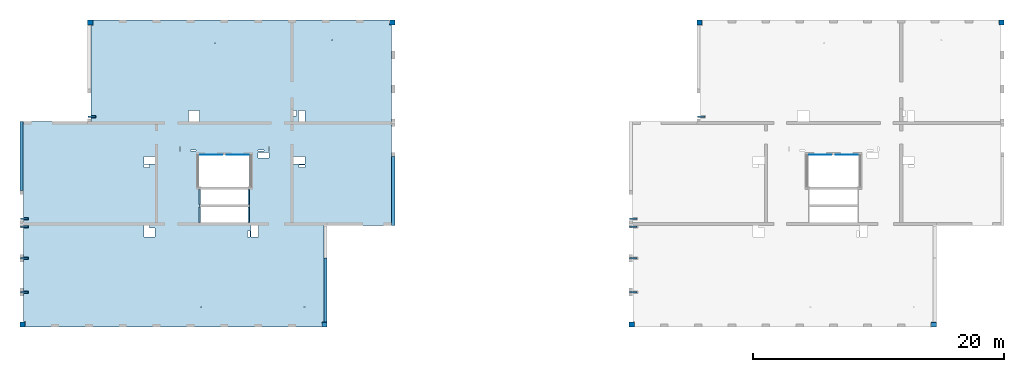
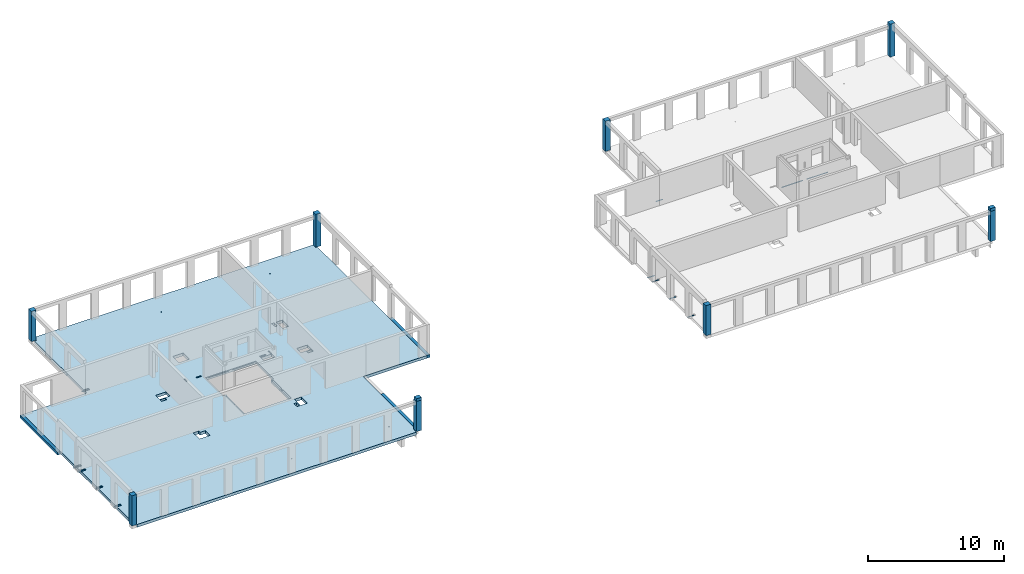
# One storey, part 1 of 12: 14 beams, 10 columns, 4 slabs, 32 openings.
"""IFC2X3 building model written with IfcOpenShell, lengths in millimetres."""

from ifc_helpers import new_model, entity, si_unit, converted_unit, derived_unit, direction, frame, frame_2d, origin, origin_2d_with_axis, place, context, subcontext, project, spatial, polyline, rectangle, circle, outline, extrude, source, transform, mapped, material, layer, layer_set, layer_usage, type_object, type_shapes, element, save


model = new_model("IFC2X3")

# Units and contexts
model_context = context("Model", 3, precision=0.01, world=origin(), true_north=direction((6.12303176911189e-17, 1.0)))
body_context = subcontext(model_context, "Body", "Model", "MODEL_VIEW")
ifc_project = project(units=[si_unit("LENGTHUNIT", "METRE", prefix="MILLI"), si_unit("AREAUNIT", "SQUARE_METRE"), si_unit("VOLUMEUNIT", "CUBIC_METRE"), converted_unit("PLANEANGLEUNIT", "DEGREE", entity("IfcRatioMeasure", 0.0174532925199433), si_unit("PLANEANGLEUNIT", "RADIAN"), dimensions=[0, 0, 0, 0, 0, 0, 0]), si_unit("MASSUNIT", "GRAM", prefix="KILO"), derived_unit("MASSDENSITYUNIT", [(si_unit("MASSUNIT", "GRAM", prefix="KILO"), 1), (si_unit("LENGTHUNIT", "METRE"), -3)]), si_unit("TIMEUNIT", "SECOND"), si_unit("FREQUENCYUNIT", "HERTZ"), si_unit("THERMODYNAMICTEMPERATUREUNIT", "DEGREE_CELSIUS"), derived_unit("THERMALTRANSMITTANCEUNIT", [(si_unit("MASSUNIT", "GRAM", prefix="KILO"), 1), (si_unit("THERMODYNAMICTEMPERATUREUNIT", "KELVIN"), -1), (si_unit("TIMEUNIT", "SECOND"), -3)]), derived_unit("VOLUMETRICFLOWRATEUNIT", [(si_unit("LENGTHUNIT", "METRE"), 3), (si_unit("TIMEUNIT", "SECOND"), -1)]), si_unit("ELECTRICCURRENTUNIT", "AMPERE"), si_unit("ELECTRICVOLTAGEUNIT", "VOLT"), si_unit("POWERUNIT", "WATT"), si_unit("FORCEUNIT", "NEWTON", prefix="KILO"), si_unit("ILLUMINANCEUNIT", "LUX"), si_unit("LUMINOUSFLUXUNIT", "LUMEN"), si_unit("LUMINOUSINTENSITYUNIT", "CANDELA"), derived_unit("USERDEFINED", [(si_unit("MASSUNIT", "GRAM", prefix="KILO"), -1), (si_unit("LENGTHUNIT", "METRE"), -2), (si_unit("TIMEUNIT", "SECOND"), 3), (si_unit("LUMINOUSFLUXUNIT", "LUMEN"), 1)]), derived_unit("LINEARVELOCITYUNIT", [(si_unit("LENGTHUNIT", "METRE"), 1), (si_unit("TIMEUNIT", "SECOND"), -1)]), si_unit("PRESSUREUNIT", "PASCAL"), derived_unit("USERDEFINED", [(si_unit("LENGTHUNIT", "METRE"), -2), (si_unit("MASSUNIT", "GRAM", prefix="KILO"), 1), (si_unit("TIMEUNIT", "SECOND"), -2)])], contexts=[model_context])

# Site, building, storey
site_placement = place(None, origin())
site = spatial("IfcSite", under=ifc_project, at=site_placement, Name="Default", CompositionType="ELEMENT")
building_placement = place(site_placement, origin())
building = spatial("IfcBuilding", under=site, at=building_placement, Name="niet gebruiken", CompositionType="ELEMENT")
storey_placement = place(building_placement, frame((0.0, 0.0, 24480.0)))
storey = spatial("IfcBuildingStorey", under=building, at=storey_placement, Name="08 achtste verdieping", CompositionType="ELEMENT", Elevation=24480.0)

# Columns
ifc_material_1 = material(Name="NLRS_f2_beton prefab")
column_type_1 = type_object("IfcColumnType", Name="410x410", PredefinedType="COLUMN", material=ifc_material_1)
shared_shape_1 = source(origin(), body_context, "Body", "SweptSolid", [
    extrude(rectangle(XDim=410.000000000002, YDim=409.999999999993, at=frame_2d((-4.33431068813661e-12, 0.0), x_axis=(1.0, 0.0))), frame((99795.0, 28961.0, 24410.0), z_axis=(0.0, 0.0, 1.0), x_axis=(0.0, -1.0, 0.0)), (0.0, 0.0, 1.0), 2700.0),
])
type_shapes(column_type_1, [shared_shape_1])
column_1_placement = place(storey_placement, frame((0.0, 0.0, -24480.0)))
element("IfcColumn", 1, at=column_1_placement, inside=storey, type_object=column_type_1, material=ifc_material_1, Name="NLRS_28. kolom vierkant_gen:410x410", ObjectType="410x410", context=body_context, shape_type="MappedRepresentation", body=[
    mapped(shared_shape_1, transform((0.0, 0.0, 0.0), scale=1.0)),
])
column_type_2 = type_object("IfcColumnType", Name="410x410", PredefinedType="COLUMN", material=ifc_material_1)
shared_shape_2 = source(origin(), body_context, "Body", "SweptSolid", [
    extrude(rectangle(XDim=410.0, YDim=410.0, at=origin_2d_with_axis()), frame((0.0, 0.0, 24410.0), z_axis=(0.0, 0.0, 1.0), x_axis=(0.0, -1.0, 0.0)), (0.0, 0.0, 1.0), 2700.0),
])
type_shapes(column_type_2, [shared_shape_2])
for number, where, z_axis, x_axis, name in (
    (2, (75705.0, 28961.0, -24480.0), (0.0, 0.0, 1.0), (0.0, 1.0, 0.0), "NLRS_28. kolom vierkant_gen1:410x410"),
    (3, (27105.0, 28961.0, -24480.0), (0.0, 0.0, 1.0), (0.0, 1.0, 0.0), "NLRS_28. kolom vierkant_gen1:410x410"),
):
    element("IfcColumn", number, at=place(storey_placement, frame(where, z_axis=z_axis, x_axis=x_axis)), inside=storey, type_object=column_type_2, material=ifc_material_1, Name=name, ObjectType="410x410", context=body_context, shape_type="MappedRepresentation", body=[
        mapped(shared_shape_2, transform((0.0, 0.0, 0.0), scale=1.0)),
    ])
column_type_3 = type_object("IfcColumnType", Name="410x410", PredefinedType="COLUMN", material=ifc_material_1)
shared_shape_3 = source(origin(), body_context, "Body", "SweptSolid", [
    extrude(rectangle(XDim=410.000000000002, YDim=409.999999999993, at=origin_2d_with_axis()), frame((105195.0, 53051.0, 24410.0), z_axis=(0.0, 0.0, 1.0), x_axis=(0.0, -1.0, 0.0)), (0.0, 0.0, 1.0), 2950.0),
])
type_shapes(column_type_3, [shared_shape_3])
column_2_placement = place(storey_placement, frame((0.0, 0.0, -24480.0)))
element("IfcColumn", 4, at=column_2_placement, inside=storey, type_object=column_type_3, material=ifc_material_1, Name="NLRS_28. kolom vierkant_gen:410x410", ObjectType="410x410", context=body_context, shape_type="MappedRepresentation", body=[
    mapped(shared_shape_3, transform((0.0, 0.0, 0.0), scale=1.0)),
])
column_type_4 = type_object("IfcColumnType", Name="410x410", PredefinedType="COLUMN", material=ifc_material_1)
shared_shape_4 = source(origin(), body_context, "Body", "SweptSolid", [
    extrude(rectangle(XDim=410.000000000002, YDim=409.999999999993, at=origin_2d_with_axis()), frame((81105.0, 53051.0, 24410.0), z_axis=(0.0, 0.0, 1.0), x_axis=(0.0, -1.0, 0.0)), (0.0, 0.0, 1.0), 2700.0),
])
type_shapes(column_type_4, [shared_shape_4])
column_3_placement = place(storey_placement, frame((0.0, 0.0, -24480.0)))
element("IfcColumn", 5, at=column_3_placement, inside=storey, type_object=column_type_4, material=ifc_material_1, Name="NLRS_28. kolom vierkant_gen:410x410", ObjectType="410x410", context=body_context, shape_type="MappedRepresentation", body=[
    mapped(shared_shape_4, transform((0.0, 0.0, 0.0), scale=1.0)),
])
column_type_5 = type_object("IfcColumnType", Name="410x410", PredefinedType="COLUMN", material=ifc_material_1)
shared_shape_5 = source(origin(), body_context, "Body", "SweptSolid", [
    extrude(rectangle(XDim=410.000000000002, YDim=410.000000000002, at=frame_2d((4.33431068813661e-12, 0.0), x_axis=(1.0, 0.0))), frame((51195.0, 28961.0, 24410.0), z_axis=(0.0, 0.0, 1.0), x_axis=(0.0, -1.0, 0.0)), (0.0, 0.0, 1.0), 2700.0),
])
type_shapes(column_type_5, [shared_shape_5])
column_4_placement = place(storey_placement, frame((0.0, 0.0, -24480.0)))
element("IfcColumn", 6, at=column_4_placement, inside=storey, type_object=column_type_5, material=ifc_material_1, Name="NLRS_28. kolom vierkant_gen:410x410", ObjectType="410x410", context=body_context, shape_type="MappedRepresentation", body=[
    mapped(shared_shape_5, transform((0.0, 0.0, 0.0), scale=1.0)),
])
column_type_6 = type_object("IfcColumnType", Name="410x410", PredefinedType="COLUMN", material=ifc_material_1)
shared_shape_6 = source(origin(), body_context, "Body", "SweptSolid", [
    extrude(rectangle(XDim=410.000000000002, YDim=410.000000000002, at=origin_2d_with_axis()), frame((56595.0, 53051.0, 24410.0), z_axis=(0.0, 0.0, 1.0), x_axis=(0.0, -1.0, 0.0)), (0.0, 0.0, 1.0), 2950.0),
])
type_shapes(column_type_6, [shared_shape_6])
column_5_placement = place(storey_placement, frame((0.0, 0.0, -24480.0)))
element("IfcColumn", 7, at=column_5_placement, inside=storey, type_object=column_type_6, material=ifc_material_1, Name="NLRS_28. kolom vierkant_gen:410x410", ObjectType="410x410", context=body_context, shape_type="MappedRepresentation", body=[
    mapped(shared_shape_6, transform((0.0, 0.0, 0.0), scale=1.0)),
])
column_type_7 = type_object("IfcColumnType", Name="410x410", PredefinedType="COLUMN", material=ifc_material_1)
shared_shape_7 = source(origin(), body_context, "Body", "SweptSolid", [
    extrude(rectangle(XDim=410.000000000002, YDim=409.999999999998, at=frame_2d((8.66862137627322e-12, 0.0), x_axis=(1.0, 0.0))), frame((32505.0, 53051.0, 24410.0), z_axis=(0.0, 0.0, 1.0), x_axis=(0.0, -1.0, 0.0)), (0.0, 0.0, 1.0), 2700.0),
])
type_shapes(column_type_7, [shared_shape_7])
column_6_placement = place(storey_placement, frame((0.0, 0.0, -24480.0)))
element("IfcColumn", 8, at=column_6_placement, inside=storey, type_object=column_type_7, material=ifc_material_1, Name="NLRS_28. kolom vierkant_gen:410x410", ObjectType="410x410", context=body_context, shape_type="MappedRepresentation", body=[
    mapped(shared_shape_7, transform((0.0, 0.0, 0.0), scale=1.0)),
])
column_type_8 = type_object("IfcColumnType", Name="410x360", PredefinedType="COLUMN", material=ifc_material_1)
shared_shape_8 = source(origin(), body_context, "Body", "SweptSolid", [
    extrude(rectangle(XDim=360.0, YDim=409.999999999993, at=origin_2d_with_axis()), frame((99795.0, 28936.0, 27110.0), z_axis=(0.0, 0.0, 1.0), x_axis=(0.0, -1.0, 0.0)), (0.0, 0.0, 1.0), 249.999999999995),
])
type_shapes(column_type_8, [shared_shape_8])
column_7_placement = place(storey_placement, frame((0.0, 0.0, -24480.0)))
element("IfcColumn", 9, at=column_7_placement, inside=storey, type_object=column_type_8, material=ifc_material_1, Name="NLRS_28. kolom vierkant_gen:410x360", ObjectType="410x360", context=body_context, shape_type="MappedRepresentation", body=[
    mapped(shared_shape_8, transform((0.0, 0.0, 0.0), scale=1.0)),
])
column_type_9 = type_object("IfcColumnType", Name="410x360", PredefinedType="COLUMN", material=ifc_material_1)
shared_shape_9 = source(origin(), body_context, "Body", "SweptSolid", [
    extrude(rectangle(XDim=360.0, YDim=410.000000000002, at=origin_2d_with_axis()), frame((51195.0, 28936.0, 27110.0), z_axis=(0.0, 0.0, 1.0), x_axis=(0.0, -1.0, 0.0)), (0.0, 0.0, 1.0), 249.999999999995),
])
type_shapes(column_type_9, [shared_shape_9])
column_8_placement = place(storey_placement, frame((0.0, 0.0, -24480.0)))
element("IfcColumn", 10, at=column_8_placement, inside=storey, type_object=column_type_9, material=ifc_material_1, Name="NLRS_28. kolom vierkant_gen:410x360", ObjectType="410x360", context=body_context, shape_type="MappedRepresentation", body=[
    mapped(shared_shape_9, transform((0.0, 0.0, 0.0), scale=1.0)),
])

# Beams
ifc_material_2 = material(Name="NLRS_h2_staal")
beam_type_1 = type_object("IfcBeamType", Name="ligger stripstaal RECT_120x10", PredefinedType="BEAM", material=ifc_material_2)
shared_shape_10 = source(origin(), body_context, "Body", "SweptSolid", [
    extrude(rectangle(XDim=599.999999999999, YDim=120.0, at=origin_2d_with_axis()), frame((0.0, 0.0, -5.0), z_axis=(0.0, 0.0, 1.0), x_axis=(-1.0, 0.0, 0.0)), (0.0, 0.0, 1.0), 9.99999999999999),
    extrude(rectangle(XDim=599.999999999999, YDim=120.0, at=origin_2d_with_axis()), frame((0.0, 0.0, -5.0), z_axis=(0.0, 0.0, 1.0), x_axis=(-1.0, 0.0, 0.0)), (0.0, 0.0, 1.0), 9.99999999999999),
])
type_shapes(beam_type_1, [shared_shape_10])
for number, where, name in (
    (11, (75835.0, 31556.0, -115.0), "NLRS_28.11_SF_WPB_stalen ligger stripstaal_gen:ligger stripstaal RECT_120x10"),
    (12, (75835.0, 34256.0, -115.0), "NLRS_28.11_SF_WPB_stalen ligger stripstaal_gen:ligger stripstaal RECT_120x10"),
    (13, (75835.0, 36766.0, -115.0), "NLRS_28.11_SF_WPB_stalen ligger stripstaal_gen:ligger stripstaal RECT_120x10"),
    (14, (27235.0, 31556.0, -115.0), "NLRS_28.11_SF_WPB_stalen ligger stripstaal_gen:ligger stripstaal RECT_120x10"),
    (15, (27235.0, 34256.0, -115.0), "NLRS_28.11_SF_WPB_stalen ligger stripstaal_gen:ligger stripstaal RECT_120x10"),
    (16, (27235.0, 36766.0, -115.0), "NLRS_28.11_SF_WPB_stalen ligger stripstaal_gen:ligger stripstaal RECT_120x10"),
):
    element("IfcBeam", number, at=place(storey_placement, frame(where)), inside=storey, type_object=beam_type_1, material=ifc_material_2, Name=name, ObjectType="ligger stripstaal RECT_120x10", context=body_context, shape_type="MappedRepresentation", body=[
        mapped(shared_shape_10, transform((0.0, 0.0, 0.0), scale=1.0)),
    ])
beam_type_2 = type_object("IfcBeamType", Name="NLRS_28.11_SF_WPB_Halfen 40-22_gen:ligger stripstaal RECT_100x10", PredefinedType="BEAM")
beam_1_placement = place(storey_placement, frame((89865.0, 42496.0, -160.0)))
element("IfcBeam", 17, at=beam_1_placement, inside=storey, type_object=beam_type_2, material=ifc_material_2, Name="NLRS_28.11_SF_WPB_Halfen 40-22_gen:ligger stripstaal RECT_100x10", ObjectType="NLRS_28.11_SF_WPB_Halfen 40-22_gen:ligger stripstaal RECT_100x10", context=body_context, shape_type="SweptSolid", body=[
    extrude(outline(polyline([(-20.0, -8.0), (-9.0, -8.0), (-9.0, 0.0), (-11.0, 0.0), (-11.0, -6.0), (-18.0, -6.0), (-18.0, 13.0), (18.0, 13.0), (18.0, -6.0), (11.0, -6.0), (11.0, 0.0), (9.0, 0.0), (9.0, -8.0), (20.0, -8.0), (20.0, 15.0), (-20.0, 15.0), (-20.0, -8.0)])), frame((0.0, 8.0, 20.0), z_axis=(1.0, 0.0, 0.0), x_axis=(0.0, 0.0, -1.0)), (0.0, 0.0, 1.0), 1760.00000000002),
])
beam_2_placement = place(storey_placement, frame((91975.0, 42496.0, -160.0)))
element("IfcBeam", 18, at=beam_2_placement, inside=storey, type_object=beam_type_2, material=ifc_material_2, Name="NLRS_28.11_SF_WPB_Halfen 40-22_gen:ligger stripstaal RECT_100x10", ObjectType="NLRS_28.11_SF_WPB_Halfen 40-22_gen:ligger stripstaal RECT_100x10", context=body_context, shape_type="SweptSolid", body=[
    extrude(outline(polyline([(-20.0, -8.0), (-9.0, -8.0), (-9.0, 0.0), (-11.0, 0.0), (-11.0, -6.0), (-18.0, -6.0), (-18.0, 13.0), (18.0, 13.0), (18.0, -6.0), (11.0, -6.0), (11.0, 0.0), (9.0, 0.0), (9.0, -8.0), (20.0, -8.0), (20.0, 15.0), (-20.0, 15.0), (-20.0, -8.0)])), frame((0.0, 8.0, 20.0), z_axis=(1.0, 0.0, 0.0), x_axis=(0.0, 0.0, -1.0)), (0.0, 0.0, 1.0), 1760.0),
])
for number, where, name in (
    (19, (41264.9998491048, 42496.0, -160.0), "NLRS_28.11_SF_WPB_Halfen 40-22_gen:ligger stripstaal RECT_100x10"),
    (20, (43374.999849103, 42496.0, -160.0), "NLRS_28.11_SF_WPB_Halfen 40-22_gen:ligger stripstaal RECT_100x10"),
):
    element("IfcBeam", number, at=place(storey_placement, frame(where)), inside=storey, type_object=beam_type_2, material=ifc_material_2, Name=name, ObjectType="NLRS_28.11_SF_WPB_Halfen 40-22_gen:ligger stripstaal RECT_100x10", context=body_context, shape_type="SweptSolid", body=[
        extrude(outline(polyline([(-20.0, -8.0), (-9.0, -8.0), (-9.0, 0.0), (-11.0, 0.0), (-11.0, -6.0), (-18.0, -6.0), (-18.0, 13.0), (18.0, 13.0), (18.0, -6.0), (11.0, -6.0), (11.0, 0.0), (9.0, 0.0), (9.0, -8.0), (20.0, -8.0), (20.0, 15.0), (-20.0, 15.0), (-20.0, -8.0)])), frame((0.0, 8.0, 20.0), z_axis=(1.0, 0.0, 0.0), x_axis=(0.0, 0.0, -1.0)), (0.0, 0.0, 1.0), 1760.00000000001),
    ])
beam_type_3 = type_object("IfcBeamType", Name="ligger stripstaal RECT_120x10", PredefinedType="BEAM", material=ifc_material_2)
shared_shape_11 = source(origin(), body_context, "Body", "SweptSolid", [
    extrude(rectangle(XDim=120.0, YDim=600.000000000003, at=origin_2d_with_axis()), frame((0.0, 0.0, -5.0), z_axis=(0.0, 0.0, 1.0), x_axis=(0.0, 1.0, 0.0)), (0.0, 0.0, 1.0), 9.99999999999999),
    extrude(rectangle(XDim=120.0, YDim=600.000000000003, at=origin_2d_with_axis()), frame((0.0, 0.0, -5.0), z_axis=(0.0, 0.0, 1.0), x_axis=(0.0, 1.0, 0.0)), (0.0, 0.0, 1.0), 9.99999999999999),
])
type_shapes(beam_type_3, [shared_shape_11])
for number, where, name in (
    (21, (75835.0, 37386.0, -115.0), "NLRS_28.11_SF_WPB_stalen ligger stripstaal_gen:ligger stripstaal RECT_120x10"),
    (22, (27235.0, 37386.0, -115.0), "NLRS_28.11_SF_WPB_stalen ligger stripstaal_gen:ligger stripstaal RECT_120x10"),
    (23, (81235.0, 45521.0, -115.0), "NLRS_28.11_SF_WPB_stalen ligger stripstaal_gen:ligger stripstaal RECT_120x10"),
    (24, (32635.0, 45521.0, -115.0), "NLRS_28.11_SF_WPB_stalen ligger stripstaal_gen:ligger stripstaal RECT_120x10"),
):
    element("IfcBeam", number, at=place(storey_placement, frame(where)), inside=storey, type_object=beam_type_3, material=ifc_material_2, Name=name, ObjectType="ligger stripstaal RECT_120x10", context=body_context, shape_type="MappedRepresentation", body=[
        mapped(shared_shape_11, transform((0.0, 0.0, 0.0), scale=1.0)),
    ])

# Slab, openings
ifc_material_3 = material(Name="NLRS_f2_beton ihwg")
ifc_layer = layer(ifc_material_3, 250.0)
ifc_layer_set = layer_set([ifc_layer], Name="Floor:NLRS_23.21_FL_beton ihwg d=250_gen")
ifc_layer_usage_1 = layer_usage(ifc_layer_set, "AXIS3", "POSITIVE", 0.0)
slab_1_placement = place(storey_placement, frame((26900.0, 28756.0, -340.0)))
slab_1 = element("IfcSlab", 25, at=slab_1_placement, inside=storey, material=ifc_layer_usage_1, Name="Floor:NLRS_23.21_FL_beton ihwg d=250_gen", ObjectType="Floor:NLRS_23.21_FL_beton ihwg d=250_gen", PredefinedType="FLOOR", context=body_context, shape_type="SweptSolid", body=[
    extrude(outline(polyline([(8994.99996701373, 12250.0), (-14665.0, 12250.0), (-14665.0, 11840.0), (-14805.0, 11840.0), (-14805.0, 4060.0), (-14825.0, 4060.0), (-14825.0, -4150.0), (-9425.0, -4150.0), (-9425.0, -11890.0), (-9265.00003298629, -11890.0), (-9265.00003298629, -12250.0), (14395.0, -12250.0), (14395.0, -11820.0), (14535.0, -11820.0), (14535.0, -4060.0), (14555.0, -4060.0), (14555.0, -1350.0), (14825.0, -1350.0), (14825.0, 4150.0), (9155.0, 4150.0), (9155.0, 7060.0), (9175.0, 7060.0), (9175.0, 11820.0), (8994.99996701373, 11820.0), (8994.99996701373, 12250.0)])), frame((14825.0, 12250.0, 250.0), z_axis=(0.0, 0.0, -1.0), x_axis=(-1.0, 0.0, 0.0)), (0.0, 0.0, 1.0), 249.999999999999),
])
opening_1_placement = place(storey_placement, frame((26900.0, 28756.0, -340.0)))
element("IfcOpeningElement", 26, at=opening_1_placement, cuts=slab_1, ObjectType="Opening", context=body_context, shape_type="SweptSolid", body=[
    extrude(circle(Radius=37.5, at=frame_2d((-7875.0, -10650.0), x_axis=(1.0, 0.0))), frame((14825.0, 12250.0, 250.0), z_axis=(0.0, 0.0, -1.0), x_axis=(-1.0, 0.0, 0.0)), (0.0, 0.0, 1.0), 249.999999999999),
])
opening_2_placement = place(storey_placement, frame((26900.0, 28756.0, -340.0)))
element("IfcOpeningElement", 27, at=opening_2_placement, cuts=slab_1, ObjectType="Opening", context=body_context, shape_type="SweptSolid", body=[
    extrude(circle(Radius=37.5, at=frame_2d((-10075.0, 10650.0), x_axis=(1.0, 0.0))), frame((14825.0, 12250.0, 250.0), z_axis=(0.0, 0.0, -1.0), x_axis=(-1.0, 0.0, 0.0)), (0.0, 0.0, 1.0), 249.999999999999),
])
opening_3_placement = place(storey_placement, frame((26900.0, 28756.0, -340.0)))
element("IfcOpeningElement", 28, at=opening_3_placement, cuts=slab_1, ObjectType="Opening", context=body_context, shape_type="SweptSolid", body=[
    extrude(circle(Radius=37.5, at=frame_2d((-725.0, 10400.0), x_axis=(1.0, 0.0))), frame((14825.0, 12250.0, 250.0), z_axis=(0.0, 0.0, -1.0), x_axis=(-1.0, 0.0, 0.0)), (0.0, 0.0, 1.0), 249.999999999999),
])
opening_4_placement = place(storey_placement, frame((26900.0, 28756.0, -340.0)))
element("IfcOpeningElement", 29, at=opening_4_placement, cuts=slab_1, ObjectType="Opening", context=body_context, shape_type="SweptSolid", body=[
    extrude(circle(Radius=37.5, at=frame_2d((375.0, -10650.0), x_axis=(1.0, 0.0))), frame((14825.0, 12250.0, 250.0), z_axis=(0.0, 0.0, -1.0), x_axis=(-1.0, 0.0, 0.0)), (0.0, 0.0, 1.0), 249.999999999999),
])
opening_5_placement = place(slab_1_placement, origin())
element("IfcOpeningElement", 30, at=opening_5_placement, cuts=slab_1, ObjectType="Opening", context=body_context, shape_type="SweptSolid", body=[
    extrude(rectangle(XDim=110.000000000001, YDim=1220.0, at=origin_2d_with_axis()), frame((14344.9999671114, 10380.0, 210.0)), (0.0, 0.0, 1.0), 39.9999999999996),
])
opening_6_placement = place(slab_1_placement, origin())
element("IfcOpeningElement", 31, at=opening_6_placement, cuts=slab_1, ObjectType="Opening", context=body_context, shape_type="SweptSolid", body=[
    extrude(rectangle(XDim=110.000000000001, YDim=1220.0, at=origin_2d_with_axis()), frame((18255.0, 10380.0, 210.0)), (0.0, 0.0, 1.0), 39.9999999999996),
])
opening_7_placement = place(slab_1_placement, origin())
element("IfcOpeningElement", 32, at=opening_7_placement, cuts=slab_1, ObjectType="Opening", context=body_context, shape_type="SweptSolid", body=[
    extrude(rectangle(XDim=110.000000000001, YDim=1220.0, at=origin_2d_with_axis()), frame((18255.0, 8960.0, 210.0)), (0.0, 0.0, 1.0), 39.9999999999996),
])
opening_8_placement = place(slab_1_placement, origin())
element("IfcOpeningElement", 33, at=opening_8_placement, cuts=slab_1, ObjectType="Opening", context=body_context, shape_type="SweptSolid", body=[
    extrude(rectangle(XDim=110.000000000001, YDim=1220.0, at=origin_2d_with_axis()), frame((14344.9997832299, 8960.0, 210.0)), (0.0, 0.0, 1.0), 39.9999999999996),
])
opening_9_placement = place(slab_1_placement, origin())
element("IfcOpeningElement", 34, at=opening_9_placement, cuts=slab_1, ObjectType="Opening", context=body_context, shape_type="SweptSolid", body=[
    extrude(rectangle(XDim=200.000000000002, YDim=400.000000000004, at=origin_2d_with_axis()), frame((490.0, 2800.0, 220.0), z_axis=(0.0, 0.0, 1.0), x_axis=(0.0, -1.0, 0.0)), (0.0, 0.0, 1.0), 30.0000000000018),
])
opening_10_placement = place(slab_1_placement, origin())
element("IfcOpeningElement", 35, at=opening_10_placement, cuts=slab_1, ObjectType="Opening", context=body_context, shape_type="SweptSolid", body=[
    extrude(rectangle(XDim=200.000000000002, YDim=400.000000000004, at=origin_2d_with_axis()), frame((490.0, 5500.0, 220.0), z_axis=(0.0, 0.0, 1.0), x_axis=(0.0, -1.0, 0.0)), (0.0, 0.0, 1.0), 30.0000000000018),
])
opening_11_placement = place(slab_1_placement, origin())
element("IfcOpeningElement", 36, at=opening_11_placement, cuts=slab_1, ObjectType="Opening", context=body_context, shape_type="SweptSolid", body=[
    extrude(rectangle(XDim=200.000000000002, YDim=400.000000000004, at=origin_2d_with_axis()), frame((490.0, 8000.0, 220.0), z_axis=(0.0, 0.0, 1.0), x_axis=(0.0, -1.0, 0.0)), (0.0, 0.0, 1.0), 30.0000000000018),
])
opening_12_placement = place(slab_1_placement, origin())
element("IfcOpeningElement", 37, at=opening_12_placement, cuts=slab_1, ObjectType="Opening", context=body_context, shape_type="SweptSolid", body=[
    extrude(rectangle(XDim=400.000000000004, YDim=200.000000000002, at=origin_2d_with_axis()), frame((470.0, 8630.0, 220.0)), (0.0, 0.0, 1.0), 30.0000000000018),
])
opening_13_placement = place(slab_1_placement, origin())
element("IfcOpeningElement", 38, at=opening_13_placement, cuts=slab_1, ObjectType="Opening", context=body_context, shape_type="SweptSolid", body=[
    extrude(rectangle(XDim=400.000000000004, YDim=199.999999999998, at=origin_2d_with_axis()), frame((5870.0, 16765.0, 220.0)), (0.0, 0.0, 1.0), 30.0000000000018),
])
opening_14_placement = place(slab_1_placement, origin())
element("IfcOpeningElement", 39, at=opening_14_placement, cuts=slab_1, ObjectType="Opening", context=body_context, shape_type="SweptSolid", body=[
    extrude(rectangle(XDim=900.000000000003, YDim=700.000000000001, at=origin_2d_with_axis()), frame((10325.0, 7550.0, 0.0), z_axis=(0.0, 0.0, 1.0), x_axis=(-1.0, 0.0, 0.0)), (0.0, 0.0, 1.0), 249.999999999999),
])
opening_15_placement = place(slab_1_placement, origin())
element("IfcOpeningElement", 40, at=opening_15_placement, cuts=slab_1, ObjectType="Opening", context=body_context, shape_type="SweptSolid", body=[
    extrude(rectangle(XDim=200.000000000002, YDim=450.000000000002, at=origin_2d_with_axis()), frame((10100.0, 8000.0, 0.0), z_axis=(0.0, 0.0, 1.0), x_axis=(0.0, -1.0, 0.0)), (0.0, 0.0, 1.0), 249.999999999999),
])
opening_16_placement = place(slab_1_placement, origin())
element("IfcOpeningElement", 41, at=opening_16_placement, cuts=slab_1, ObjectType="Opening", context=body_context, shape_type="SweptSolid", body=[
    extrude(rectangle(XDim=450.000000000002, YDim=900.000000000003, at=origin_2d_with_axis()), frame((19430.0, 13720.0, 0.0), z_axis=(0.0, 0.0, 1.0), x_axis=(0.0, -1.0, 0.0)), (0.0, 0.0, 1.0), 249.999999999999),
])
opening_17_placement = place(slab_1_placement, origin())
element("IfcOpeningElement", 42, at=opening_17_placement, cuts=slab_1, ObjectType="Opening", context=body_context, shape_type="SweptSolid", body=[
    extrude(rectangle(XDim=900.000000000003, YDim=900.000000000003, at=origin_2d_with_axis()), frame((13885.0, 16850.0, 0.0), z_axis=(0.0, 0.0, 1.0), x_axis=(-1.0, 0.0, 0.0)), (0.0, 0.0, 1.0), 249.999999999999),
])
opening_18_placement = place(slab_1_placement, origin())
element("IfcOpeningElement", 43, at=opening_18_placement, cuts=slab_1, ObjectType="Opening", context=body_context, shape_type="SweptSolid", body=[
    extrude(rectangle(XDim=900.000000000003, YDim=600.000000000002, at=origin_2d_with_axis()), frame((10325.0, 13330.0, 0.0), z_axis=(0.0, 0.0, 1.0), x_axis=(-1.0, 0.0, 0.0)), (0.0, 0.0, 1.0), 249.999999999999),
])
opening_19_placement = place(slab_1_placement, origin())
element("IfcOpeningElement", 44, at=opening_19_placement, cuts=slab_1, ObjectType="Opening", context=body_context, shape_type="SweptSolid", body=[
    extrude(rectangle(XDim=900.000000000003, YDim=499.999999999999, at=origin_2d_with_axis()), frame((22475.0, 16850.0, 0.0), z_axis=(0.0, 0.0, 1.0), x_axis=(0.0, 1.0, 0.0)), (0.0, 0.0, 1.0), 249.999999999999),
])
opening_20_placement = place(slab_1_placement, origin())
element("IfcOpeningElement", 45, at=opening_20_placement, cuts=slab_1, ObjectType="Opening", context=body_context, shape_type="SweptSolid", body=[
    extrude(rectangle(XDim=899.999999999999, YDim=600.000000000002, at=origin_2d_with_axis()), frame((18729.9818996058, 7650.0, 0.0), z_axis=(0.0, 0.0, 1.0), x_axis=(0.0, 1.0, 0.0)), (0.0, 0.0, 1.0), 249.999999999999),
])
opening_21_placement = place(slab_1_placement, origin())
element("IfcOpeningElement", 46, at=opening_21_placement, cuts=slab_1, ObjectType="Opening", context=body_context, shape_type="SweptSolid", body=[
    extrude(rectangle(XDim=1760.00000000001, YDim=23.0000000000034, at=origin_2d_with_axis()), frame((17354.999849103, 13751.5, 180.0)), (0.0, 0.0, 1.0), 39.9999999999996),
])
opening_22_placement = place(slab_1_placement, origin())
element("IfcOpeningElement", 47, at=opening_22_placement, cuts=slab_1, ObjectType="Opening", context=body_context, shape_type="SweptSolid", body=[
    extrude(rectangle(XDim=1760.00000000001, YDim=23.0000000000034, at=origin_2d_with_axis()), frame((15244.9998491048, 13751.5, 180.0)), (0.0, 0.0, 1.0), 39.9999999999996),
])
opening_23_placement = place(slab_1_placement, origin())
element("IfcOpeningElement", 48, at=opening_23_placement, cuts=slab_1, ObjectType="Opening", context=body_context, shape_type="SweptSolid", body=[
    extrude(rectangle(XDim=100.000000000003, YDim=490.000000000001, at=origin_2d_with_axis()), frame((19225.0, 14090.0, 0.0), z_axis=(0.0, 0.0, 1.0), x_axis=(0.0, -1.0, 0.0)), (0.0, 0.0, 1.0), 249.999999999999),
])
opening_24_placement = place(slab_1_placement, origin())
element("IfcOpeningElement", 49, at=opening_24_placement, cuts=slab_1, ObjectType="Opening", context=body_context, shape_type="SweptSolid", body=[
    extrude(rectangle(XDim=100.000000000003, YDim=340.000000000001, at=origin_2d_with_axis()), frame((19865.0, 14210.0, 0.0), z_axis=(0.0, 0.0, 1.0), x_axis=(-1.0, 0.0, 0.0)), (0.0, 0.0, 1.0), 249.999999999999),
])
opening_25_placement = place(slab_1_placement, origin())
element("IfcOpeningElement", 50, at=opening_25_placement, cuts=slab_1, ObjectType="Opening", context=body_context, shape_type="SweptSolid", body=[
    extrude(rectangle(XDim=100.000000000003, YDim=440.000000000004, at=origin_2d_with_axis()), frame((13805.0, 14090.0, 0.0), z_axis=(0.0, 0.0, 1.0), x_axis=(0.0, -1.0, 0.0)), (0.0, 0.0, 1.0), 249.999999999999),
])
opening_26_placement = place(slab_1_placement, origin())
element("IfcOpeningElement", 51, at=opening_26_placement, cuts=slab_1, ObjectType="Opening", context=body_context, shape_type="SweptSolid", body=[
    extrude(rectangle(XDim=100.000000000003, YDim=340.000000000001, at=origin_2d_with_axis()), frame((12755.0, 14210.0, 0.0), z_axis=(0.0, 0.0, 1.0), x_axis=(-1.0, 0.0, 0.0)), (0.0, 0.0, 1.0), 249.999999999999),
])
opening_27_placement = place(slab_1_placement, origin())
element("IfcOpeningElement", 52, at=opening_27_placement, cuts=slab_1, ObjectType="Opening", context=body_context, shape_type="SweptSolid", body=[
    extrude(rectangle(XDim=220.000000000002, YDim=450.000000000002, at=origin_2d_with_axis()), frame((21935.0, 17075.0, 0.0), z_axis=(0.0, 0.0, 1.0), x_axis=(-1.0, 0.0, 0.0)), (0.0, 0.0, 1.0), 249.999999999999),
])
opening_28_placement = place(slab_1_placement, origin())
element("IfcOpeningElement", 53, at=opening_28_placement, cuts=slab_1, ObjectType="Opening", context=body_context, shape_type="SweptSolid", body=[
    extrude(rectangle(XDim=230.0, YDim=450.000000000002, at=origin_2d_with_axis()), frame((10100.0000865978, 12845.0002270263, 0.0), z_axis=(0.0, 0.0, 1.0), x_axis=(0.0, -1.0, 0.0)), (0.0, 0.0, 1.0), 249.999999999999),
])
opening_29_placement = place(slab_1_placement, origin())
element("IfcOpeningElement", 54, at=opening_29_placement, cuts=slab_1, ObjectType="Opening", context=body_context, shape_type="SweptSolid", body=[
    extrude(rectangle(XDim=220.000000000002, YDim=450.000000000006, at=origin_2d_with_axis()), frame((18240.0, 7425.0, 0.0)), (0.0, 0.0, 1.0), 249.999999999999),
])
opening_30_placement = place(slab_1_placement, origin())
element("IfcOpeningElement", 55, at=opening_30_placement, cuts=slab_1, ObjectType="Opening", context=body_context, shape_type="SweptSolid", body=[
    extrude(rectangle(XDim=900.000000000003, YDim=600.000000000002, at=origin_2d_with_axis()), frame((22275.0, 13330.0, 0.0), z_axis=(0.0, 0.0, 1.0), x_axis=(-1.0, 0.0, 0.0)), (0.0, 0.0, 1.0), 249.999999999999),
])
opening_31_placement = place(slab_1_placement, origin())
element("IfcOpeningElement", 56, at=opening_31_placement, cuts=slab_1, ObjectType="Opening", context=body_context, shape_type="SweptSolid", body=[
    extrude(rectangle(XDim=220.000000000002, YDim=450.000000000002, at=origin_2d_with_axis()), frame((22500.0, 12840.0, 0.0), z_axis=(0.0, 0.0, 1.0), x_axis=(0.0, -1.0, 0.0)), (0.0, 0.0, 1.0), 249.999999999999),
])
opening_32_placement = place(slab_1_placement, frame((16300.0, 10378.75, 250.0)))
element("IfcOpeningElement", 57, at=opening_32_placement, cuts=slab_1, Name="Floor:NLRS_23.21_FL_beton ihwg d=250_gen:2", ObjectType="Opening", context=body_context, shape_type="SweptSolid", body=[
    extrude(outline(polyline([(-3361.25000000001, -2135.00001644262), (-751.250000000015, -2135.00001644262), (-751.250000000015, -1899.99998355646), (608.750000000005, -1899.99998355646), (608.750000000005, -2000.00001644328), (808.750000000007, -2000.00001644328), (808.750000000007, -1899.99998355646), (2028.75, -1899.99998355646), (2028.75, 1900.00001644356), (808.749999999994, 1900.00001644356), (808.749999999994, 1999.99998355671), (608.749999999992, 1999.99998355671), (608.749999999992, 1900.00001644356), (-751.250000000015, 1900.00001644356), (-751.250000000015, 2134.99998355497), (-3361.25000000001, 2134.99998355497), (-3361.25000000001, -2135.00001644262)])), frame((0.0, 0.0, 0.0), z_axis=(0.0, 0.0, -1.0), x_axis=(0.0, -1.0, 0.0)), (0.0, 0.0, 1.0), 249.999999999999),
])

# Slabs
ifc_layer_usage_2 = layer_usage(ifc_layer_set, "AXIS3", "POSITIVE", 0.0)
slab_2_placement = place(storey_placement, origin())
element("IfcSlab", 58, at=slab_2_placement, inside=storey, material=ifc_layer_usage_2, Name="Floor:NLRS_23.21_FL_beton ihwg d=250_gen", ObjectType="Floor:NLRS_23.21_FL_beton ihwg d=250_gen", PredefinedType="FLOOR", context=body_context, shape_type="SweptSolid", body=[
    extrude(rectangle(XDim=5140.00000000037, YDim=250.000065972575, at=origin_2d_with_axis()), frame((51275.0, 31686.0, -90.0), z_axis=(0.0, 0.0, -1.0), x_axis=(0.0, 1.0, 0.0)), (0.0, 0.0, 1.0), 249.999999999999),
])
ifc_layer_usage_3 = layer_usage(ifc_layer_set, "AXIS3", "POSITIVE", 0.0)
slab_3_placement = place(storey_placement, origin())
element("IfcSlab", 59, at=slab_3_placement, inside=storey, material=ifc_layer_usage_3, Name="Floor:NLRS_23.21_FL_beton ihwg d=250_gen", ObjectType="Floor:NLRS_23.21_FL_beton ihwg d=250_gen", PredefinedType="FLOOR", context=body_context, shape_type="SweptSolid", body=[
    extrude(rectangle(XDim=5499.99999999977, YDim=250.000000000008, at=frame_2d((0.0, 2.16715534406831e-12), x_axis=(1.0, 0.0))), frame((27025.0, 42406.0, -90.0), z_axis=(0.0, 0.0, -1.0), x_axis=(0.0, 1.0, 0.0)), (0.0, 0.0, 1.0), 249.999999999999),
])
ifc_layer_usage_4 = layer_usage(ifc_layer_set, "AXIS3", "POSITIVE", 0.0)
slab_4_placement = place(storey_placement, origin())
element("IfcSlab", 60, at=slab_4_placement, inside=storey, material=ifc_layer_usage_4, Name="Floor:NLRS_23.21_FL_beton ihwg d=250_gen", ObjectType="Floor:NLRS_23.21_FL_beton ihwg d=250_gen", PredefinedType="FLOOR", context=body_context, shape_type="SweptSolid", body=[
    extrude(rectangle(XDim=5500.00000000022, YDim=250.000000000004, at=frame_2d((0.0, 4.33431068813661e-12), x_axis=(1.0, 0.0))), frame((56675.0, 39606.0, -90.0), z_axis=(0.0, 0.0, -1.0), x_axis=(0.0, 1.0, 0.0)), (0.0, 0.0, 1.0), 249.999999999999),
])

save(model, "model.ifc")
